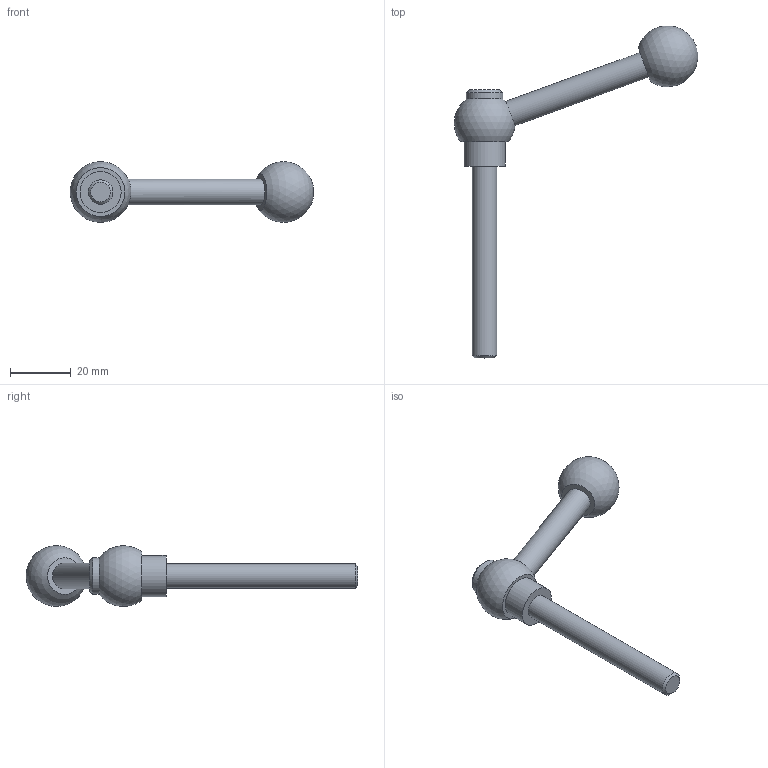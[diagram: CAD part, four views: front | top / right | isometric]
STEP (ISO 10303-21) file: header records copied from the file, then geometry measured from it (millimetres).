
FILE_DESCRIPTION( ( 'STEP AP203' ), '1' );
FILE_NAME( 'C:/Temp/Ganter_Step_05_03_2020/data/2_1/gn_6337_3/gn_6337_3_ms/gn_6337_3_ms_n/Adjustable clamping lever with bolt GN 6337.3-20-M8-63-N.stp', '2020-03-05T11:41:17', ( 'License CC BY-ND 4.0' ), ( 'CADENAS' ), ' ', 'PARTsolutions', ' ' );
FILE_SCHEMA( ( 'CONFIG_CONTROL_DESIGN' ) );
Length unit declared in the file: millimetre
Products named in the file (1): _Adjustable clamping lever with bolt GN 6337.3-20-M8-63-N
Bounding box: 79.86 x 108.97 x 19.97 mm (x, y, z)
Volume: 14965.2 mm3; surface area: 5573.1 mm2
Topology: 1 solids, 1 shells, 13 faces, 22 edges, 14 vertices
Faces by surface type: plane 5, cylinder 4, sphere 2, cone 2
Full cylindrical faces by diameter (mm): 8 x1, 8.5 x1, 12 x1, 13.5 x1
Entity records: 364 total; most frequent: CARTESIAN_POINT 104, DIRECTION 50, AXIS2_PLACEMENT_3D 25, EDGE_LOOP 24, ORIENTED_EDGE 24, FACE_OUTER_BOUND 18, ADVANCED_FACE 13, VERTEX_POINT 13
